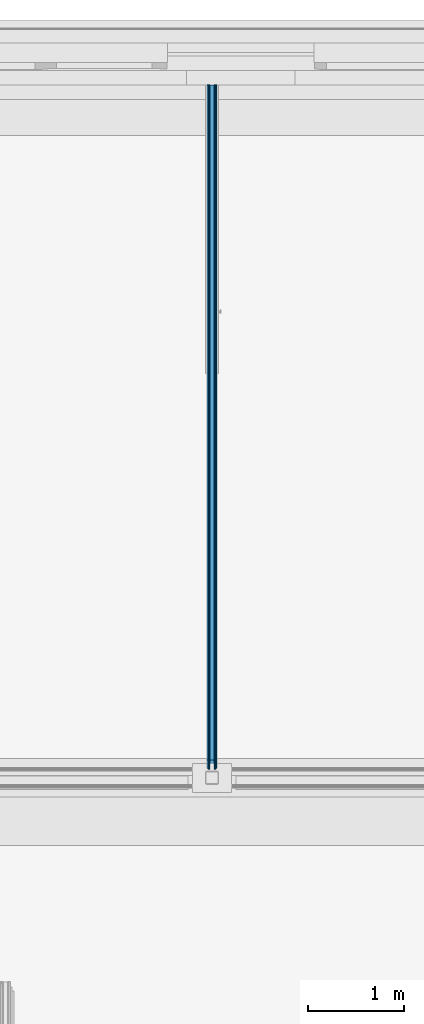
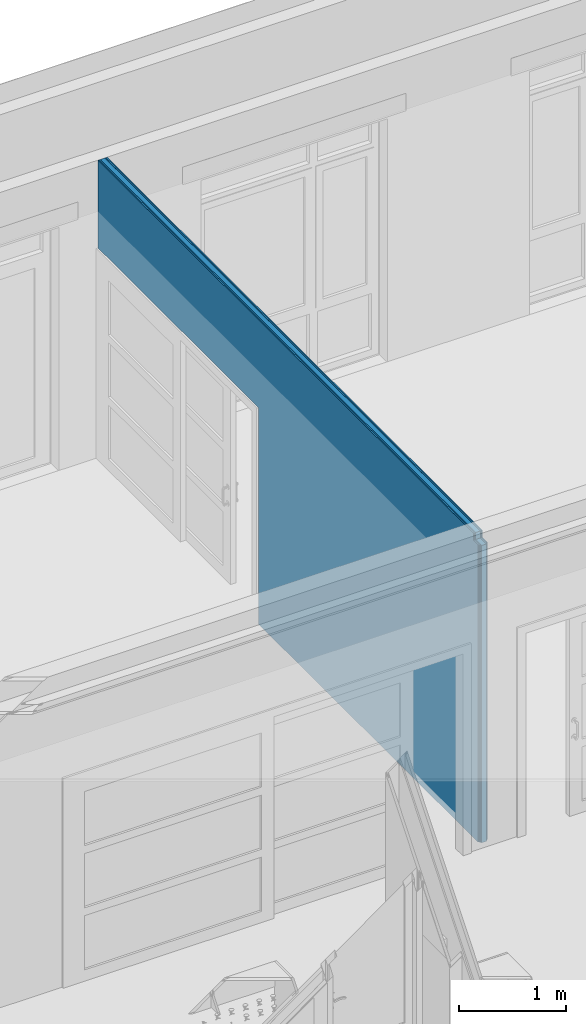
# One storey, part 397 of 788: 5 building element parts, 1 opening, 1 element without a shape of its own.
"""IFC2X3 building model written with IfcOpenShell, lengths in millimetres."""

import ifcopenshell
import ifcopenshell.guid

model = None  # the IFC model being written
_history = None  # IfcOwnerHistory: only IFC2X3 demands one
_inside = {}  # id of a spatial element -> (the spatial element, [elements in it])
_under = {}  # id of a project, library or spatial element -> (it, [spatial elements below it])
_declared = {}  # id of a project -> (the project, [libraries it declares])
_typed = {}  # id of a type object -> (the type object, [elements of that type])
_made_of = {}  # id of a material, layer set ... -> (it, [elements and type objects made of it])


def new_model(schema):
    """Start an empty IFC model of exactly this schema.

    Asked for "IFC4X3", IfcOpenShell would pick the latest addendum, in which some entities
    have other attributes; the version numbers below select the first issue.
    IFC2X3 requires an IfcOwnerHistory on every rooted entity: one is made here for all.
    """
    global model, _history
    if schema == "IFC4X3":
        model = ifcopenshell.file(schema_version=(4, 3, 0, 0))
    else:
        model = ifcopenshell.file(schema=schema)
    _inside.clear()
    _under.clear()
    _declared.clear()
    _typed.clear()
    _made_of.clear()
    _history = None
    if model.schema == "IFC2X3":
        org = make("IfcOrganization", Name="unknown")
        user = make(
            "IfcPersonAndOrganization",
            ThePerson=make("IfcPerson", FamilyName="unknown"),
            TheOrganization=org,
        )
        app = make(
            "IfcApplication",
            ApplicationDeveloper=org,
            Version="unknown",
            ApplicationFullName="unknown",
            ApplicationIdentifier="unknown",
        )
        _history = make(
            "IfcOwnerHistory",
            OwningUser=user,
            OwningApplication=app,
            ChangeAction="ADDED",
            CreationDate=0,
        )
    return model


def make(cls, **values):
    """One entity of the class cls with the attributes given. An attribute that is None is left unset."""
    return model.create_entity(
        cls, **{name: value for name, value in values.items() if value is not None}
    )


def entity(cls, *values):
    """Any entity or typed value of the class cls, its attributes in the order of the schema. None: left unset."""
    e = model.create_entity(cls)
    for i, value in enumerate(values):
        if value is not None:
            e[i] = value
    return e


def rooted(cls, **values):
    """An entity with a GlobalId (a new one), such as an element, a storey or a relation."""
    return make(cls, GlobalId=ifcopenshell.guid.new(), OwnerHistory=_history, **values)


def si_unit(unit_type, name, prefix=None):
    """IfcSIUnit, for example si_unit("LENGTHUNIT", "METRE", prefix="MILLI")."""
    return make("IfcSIUnit", UnitType=unit_type, Prefix=prefix, Name=name)


def converted_unit(unit_type, name, factor, base, dimensions=None, offset=None):
    """IfcConversionBasedUnit, such as the inch: factor (a typed value) times the base unit."""
    return make(
        "IfcConversionBasedUnit"
        if offset is None
        else "IfcConversionBasedUnitWithOffset",
        ConversionOffset=offset,
        Dimensions=None
        if dimensions is None
        else entity("IfcDimensionalExponents", *dimensions),
        UnitType=unit_type,
        Name=name,
        ConversionFactor=make(
            "IfcMeasureWithUnit", ValueComponent=factor, UnitComponent=base
        ),
    )


def derived_unit(unit_type, elements):
    """IfcDerivedUnit: a product of units, each with its exponent."""
    return make(
        "IfcDerivedUnit",
        Elements=[
            make("IfcDerivedUnitElement", Unit=unit, Exponent=power)
            for unit, power in elements
        ],
        UnitType=unit_type,
    )


def money_unit(currency):
    """IfcMonetaryUnit."""
    return make("IfcMonetaryUnit", Currency=currency)


def assignment(units):
    """IfcUnitAssignment: the units of a project."""
    return None if units is None else make("IfcUnitAssignment", Units=units)


def point(xyz):
    """IfcCartesianPoint."""
    return None if xyz is None else make("IfcCartesianPoint", Coordinates=xyz)


def direction(xyz):
    """IfcDirection."""
    return None if xyz is None else make("IfcDirection", DirectionRatios=xyz)


def frame(location, z_axis=None, x_axis=None):
    """IfcAxis2Placement3D, a coordinate frame: its origin and axes. An axis left out is left unset."""
    return make(
        "IfcAxis2Placement3D",
        Location=point(location),
        Axis=direction(z_axis),
        RefDirection=direction(x_axis),
    )


def origin_with_axes():
    """The frame at (0, 0, 0) with the z axis (0, 0, 1) and the x axis (1, 0, 0) written out."""
    return frame((0.0, 0.0, 0.0), z_axis=(0.0, 0.0, 1.0), x_axis=(1.0, 0.0, 0.0))


def place(relative_to, where):
    """IfcLocalPlacement: puts the frame where relative to a parent placement (None: the world)."""
    return make(
        "IfcLocalPlacement", PlacementRelTo=relative_to, RelativePlacement=where
    )


def context(
    kind, dimensions, precision=None, world=None, true_north=None, identifier=None
):
    """IfcGeometricRepresentationContext, for example the 3D "Model" context."""
    return make(
        "IfcGeometricRepresentationContext",
        ContextIdentifier=identifier,
        ContextType=kind,
        CoordinateSpaceDimension=dimensions,
        Precision=precision,
        WorldCoordinateSystem=world,
        TrueNorth=true_north,
    )


def subcontext(parent, identifier, kind, view, scale=None):
    """IfcGeometricRepresentationSubContext, for example "Body" below "Model"."""
    return make(
        "IfcGeometricRepresentationSubContext",
        ContextIdentifier=identifier,
        ContextType=kind,
        ParentContext=parent,
        TargetScale=scale,
        TargetView=view,
    )


def project(units=None, contexts=None):
    """IfcProject with its units and contexts."""
    return rooted(
        "IfcProject",
        Name="project",
        RepresentationContexts=contexts,
        UnitsInContext=assignment(units),
    )


def spatial(cls, under=None, at=None, **own):
    """A site, building, storey or space (cls), placed at a placement, below another one or the project."""
    s = rooted(cls, ObjectPlacement=at, **own)
    if under is not None:
        _under.setdefault(under.id(), (under, []))[1].append(s)
    return s


def faces_of(points, faces, orient=None, outer=None):
    """IfcFace entities. A face is a list of loops; a loop is a list of indices into points, from 0.

    orient and outer hold one flag for each loop. By default every Orientation is true, the
    first loop of a face is its IfcFaceOuterBound and the others are IfcFaceBound.
    """
    made = []
    for i, loops in enumerate(faces):
        bounds = []
        for j, loop in enumerate(loops):
            is_outer = j == 0 if outer is None else outer[i][j]
            bounds.append(
                make(
                    "IfcFaceOuterBound" if is_outer else "IfcFaceBound",
                    Bound=make("IfcPolyLoop", Polygon=[points[k] for k in loop]),
                    Orientation=True if orient is None else orient[i][j],
                )
            )
        made.append(make("IfcFace", Bounds=bounds))
    return made


def faceted_brep(points, faces, orient=None, outer=None, voids=None):
    """IfcFacetedBrep: a solid bounded by flat faces; with voids (closed shells), ...WithVoids."""
    shared = [point(p) for p in points]
    hull = make("IfcClosedShell", CfsFaces=faces_of(shared, faces, orient, outer))
    if voids is None:
        return make("IfcFacetedBrep", Outer=hull)
    return make(
        "IfcFacetedBrepWithVoids",
        Outer=hull,
        Voids=[
            make(cls, CfsFaces=faces_of(shared, fs, o, b)) for cls, fs, o, b in voids
        ],
    )


def shape(context_of_items, identifier, shape_type, items):
    """IfcShapeRepresentation: the items that make up one representation, for example the "Body"."""
    return make(
        "IfcShapeRepresentation",
        ContextOfItems=context_of_items,
        RepresentationIdentifier=identifier,
        RepresentationType=shape_type,
        Items=items,
    )


def material(Name=None, Category=None):
    """IfcMaterial."""
    return make("IfcMaterial", Name=Name, Category=Category)


def made_of(thing, what):
    """Note that an element or type object is made of a material, layer set ...; save() writes the relation."""
    if what is not None:
        _made_of.setdefault(what.id(), (what, []))[1].append(thing)
    return thing


def type_object(cls, material=None, **own):
    """A type object (cls), such as IfcWallType, which elements share."""
    return made_of(rooted(cls, **own), material)


def element(
    cls,
    number,
    at=None,
    inside=None,
    cuts=None,
    type_object=None,
    material=None,
    context=None,
    identifier="Body",
    shape_type=None,
    held_by="IfcProductDefinitionShape",
    body=None,
    shapes=None,
    **own,
):
    """One element of the class cls, such as IfcWall. Its Tag is "e" and its number.

    at: its placement. inside: the storey or other place that contains it. cuts: it is an
    opening in that element (IfcRelVoidsElement). A single representation is given by context,
    identifier, shape_type and body (its items); several are given by shapes. held_by: the class
    of the entity that holds the representations. save() writes the other relations.
    """
    e = rooted(cls, Tag="e%d" % number, ObjectPlacement=at, **own)
    if body is not None:
        shapes = [shape(context, identifier, shape_type, body)]
    if shapes is not None:
        e.Representation = make(held_by, Representations=shapes)
    if inside is not None:
        _inside.setdefault(inside.id(), (inside, []))[1].append(e)
    if cuts is not None:
        rooted(
            "IfcRelVoidsElement", RelatingBuildingElement=cuts, RelatedOpeningElement=e
        )
    if type_object is not None:
        _typed.setdefault(type_object.id(), (type_object, []))[1].append(e)
    return made_of(e, material)


def aggregate(whole, parts):
    """IfcRelAggregates: a whole, such as a stair, and the parts it consists of."""
    return rooted("IfcRelAggregates", RelatingObject=whole, RelatedObjects=parts)


def save(model, path):
    """Write the relations noted so far, then the file.

    IfcRelAggregates (storeys below a building ...), IfcRelContainedInSpatialStructure (elements
    in a storey), IfcRelDefinesByType, IfcRelAssociatesMaterial and IfcRelDeclares: one each for
    every whole, place, type object, material and project.
    """
    for whole, parts in _under.values():
        aggregate(whole, parts)
    for where, things in _inside.values():
        rooted(
            "IfcRelContainedInSpatialStructure",
            RelatedElements=things,
            RelatingStructure=where,
        )
    for kind, things in _typed.values():
        rooted("IfcRelDefinesByType", RelatedObjects=things, RelatingType=kind)
    for what, things in _made_of.values():
        rooted("IfcRelAssociatesMaterial", RelatedObjects=things, RelatingMaterial=what)
    for by, libraries in _declared.values():
        rooted("IfcRelDeclares", RelatingContext=by, RelatedDefinitions=libraries)
    model.write(path)


model = new_model("IFC2X3")

# Units and contexts
model_context = context("Model", 3, precision=0.01, world=origin_with_axes(), true_north=direction((0.0, 1.0)))
plan_context = context("Plan", 3, precision=0.01, world=origin_with_axes(), true_north=direction((0.0, 1.0)))
body_context = subcontext(model_context, "Body", "Model", "MODEL_VIEW")
ifc_project = project(units=[si_unit("LENGTHUNIT", "METRE", prefix="MILLI"), si_unit("AREAUNIT", "SQUARE_METRE"), si_unit("VOLUMEUNIT", "CUBIC_METRE"), converted_unit("PLANEANGLEUNIT", "DEGREE", entity("IfcPlaneAngleMeasure", 0.0174532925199), si_unit("PLANEANGLEUNIT", "RADIAN"), dimensions=[0, 0, 0, 0, 0, 0, 0]), money_unit("EUR"), converted_unit("TIMEUNIT", "Year", entity("IfcTimeMeasure", 31556926.0), si_unit("TIMEUNIT", "SECOND"), dimensions=[0, 0, 1, 0, 0, 0, 0]), si_unit("MASSUNIT", "GRAM", prefix="KILO"), si_unit("THERMODYNAMICTEMPERATUREUNIT", "DEGREE_CELSIUS"), si_unit("LUMINOUSINTENSITYUNIT", "LUMEN"), si_unit("ENERGYUNIT", "JOULE", prefix="MEGA"), derived_unit("THERMALCONDUCTANCEUNIT", [(si_unit("POWERUNIT", "WATT"), 1), (si_unit("LENGTHUNIT", "METRE"), -1), (si_unit("THERMODYNAMICTEMPERATUREUNIT", "KELVIN"), -1)]), derived_unit("SPECIFICHEATCAPACITYUNIT", [(si_unit("ENERGYUNIT", "JOULE"), 1), (si_unit("MASSUNIT", "GRAM", prefix="KILO"), -1), (si_unit("THERMODYNAMICTEMPERATUREUNIT", "KELVIN"), -1)]), derived_unit("MASSDENSITYUNIT", [(si_unit("MASSUNIT", "GRAM", prefix="KILO"), 1), (si_unit("VOLUMEUNIT", "CUBIC_METRE"), -1)])], contexts=[model_context, plan_context])

# Site, building, storey
site_placement = place(None, origin_with_axes())
site = spatial("IfcSite", under=ifc_project, at=site_placement, Name="Site", CompositionType="ELEMENT")
building_placement = place(site_placement, origin_with_axes())
building = spatial("IfcBuilding", under=site, at=building_placement, Name="Naam gebouw", CompositionType="ELEMENT")
storey_placement = place(building_placement, origin_with_axes())
storey = spatial("IfcBuildingStorey", under=building, at=storey_placement, Name="Begane grond", CompositionType="ELEMENT", Elevation=0.0)

# Wall, opening, building element parts
wall_type = type_object("IfcWallType", Name="22 Metalstud 100mm 100", PredefinedType="ELEMENTEDWALL")
wall_placement = place(storey_placement, frame((39700.9874245, 27979.9913222, -70.0), z_axis=(0.0, 0.0, 1.0), x_axis=(0.0, 1.0, 0.0)))
wall = element("IfcWall", 1, at=wall_placement, inside=storey, type_object=wall_type, Name="Binnenwand")
opening_placement = place(wall_placement, frame((5700.0017549, 0.0, 70.0), z_axis=(0.0, 0.0, 1.0), x_axis=(1.0, 0.0, 0.0)))
element("IfcOpeningElement", 2, at=opening_placement, cuts=wall, Name="s.02", context=body_context, shape_type="Brep", body=[
    faceted_brep([(1500.0, -100.0, 2400.0), (1500.0, -100.0, 0.0), (1500.0, 219.5, 0.0), (1500.0, 219.5, 2400.0), (-1500.0, -100.0, 2400.0), (-1500.0, -100.0, 0.0), (-1500.0, 219.5, 0.0), (-1500.0, 219.5, 2400.0)], [[[0, 1, 2, 3]], [[0, 4, 5, 1]], [[1, 5, 6, 2]], [[3, 2, 6, 7]], [[4, 0, 3, 7]], [[5, 4, 7, 6]]]),
])
ifc_material_1 = material(Name="Gipsplaat")
building_element_part_1_placement = place(wall_placement, origin_with_axes())
building_element_part_1 = element("IfcBuildingElementPart", 3, at=building_element_part_1_placement, material=ifc_material_1, Name="Gipsplaat", context=body_context, shape_type="Brep", body=[
    faceted_brep([(4200.0017549, 37.5, 70.0), (4200.0017549, 37.5, 2470.0), (7200.0017549, 37.5, 2470.0), (7200.0017549, 37.5, 3470.0), (187.000000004, 37.5, 3470.0), (187.000000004, 37.5, 3390.0), (100.0, 37.5, 3390.0), (100.0, 37.5, 0.0), (4200.0017549, 37.5, 0.0), (4200.0017549, 50.0, 70.0), (4200.0017549, 50.0, 2470.0), (7200.0017549, 50.0, 2470.0), (7200.0017549, 50.0, 3470.0), (187.000000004, 50.0, 3470.0), (187.000000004, 50.0, 3390.0), (100.0, 50.0, 3390.0), (100.0, 50.0, 0.0), (4200.0017549, 50.0, 0.0)], [[[0, 1, 2, 3, 4, 5, 6, 7, 8]], [[1, 0, 9, 10]], [[11, 2, 1, 10]], [[2, 11, 12, 3]], [[4, 3, 12, 13]], [[13, 14, 5, 4]], [[5, 14, 15, 6]], [[15, 16, 7, 6]], [[17, 8, 7, 16]], [[9, 0, 8, 17]], [[10, 9, 17, 16, 15, 14, 13, 12, 11]]]),
])
building_element_part_2_placement = place(wall_placement, origin_with_axes())
building_element_part_2 = element("IfcBuildingElementPart", 4, at=building_element_part_2_placement, material=ifc_material_1, Name="Gipsplaat", context=body_context, shape_type="Brep", body=[
    faceted_brep([(4200.0017549, 25.0, 70.0), (4200.0017549, 25.0, 2470.0), (7200.0017549, 25.0, 2470.0), (7200.0017549, 25.0, 3470.0), (187.000000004, 25.0, 3470.0), (187.000000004, 25.0, 3390.0), (87.5, 25.0, 3390.0), (87.5, 25.0, 0.0), (4200.0017549, 25.0, 0.0), (4200.0017549, 37.5, 70.0), (4200.0017549, 37.5, 2470.0), (7200.0017549, 37.5, 2470.0), (7200.0017549, 37.5, 3470.0), (187.000000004, 37.5, 3470.0), (187.000000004, 37.5, 3390.0), (87.5, 37.5, 3390.0), (87.5, 37.5, 0.0), (4200.0017549, 37.5, 0.0)], [[[0, 1, 2, 3, 4, 5, 6, 7, 8]], [[1, 0, 9, 10]], [[11, 2, 1, 10]], [[2, 11, 12, 3]], [[4, 3, 12, 13]], [[13, 14, 5, 4]], [[5, 14, 15, 6]], [[15, 16, 7, 6]], [[17, 8, 7, 16]], [[9, 0, 8, 17]], [[10, 9, 17, 16, 15, 14, 13, 12, 11]]]),
])
ifc_material_2 = material(Name="Isolatie - Steenwol LSW")
building_element_part_3_placement = place(wall_placement, origin_with_axes())
building_element_part_3 = element("IfcBuildingElementPart", 5, at=building_element_part_3_placement, material=ifc_material_2, Name="Isolatie - Steenwol LSW", context=body_context, shape_type="Brep", body=[
    faceted_brep([(4200.0017549, -25.0, 70.0), (4200.0017549, -25.0, 2470.0), (7200.0017549, -25.0, 2470.0), (7200.0017549, -25.0, 3470.0), (187.000000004, -25.0, 3470.0), (187.000000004, -25.0, 3390.0), (75.0, -25.0, 3390.0), (75.0, -25.0, 0.0), (4200.0017549, -25.0, 0.0), (4200.0017549, 25.0, 70.0), (4200.0017549, 25.0, 2470.0), (7200.0017549, 25.0, 2470.0), (7200.0017549, 25.0, 3470.0), (187.000000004, 25.0, 3470.0), (187.000000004, 25.0, 3390.0), (75.0, 25.0, 3390.0), (75.0, 25.0, 0.0), (4200.0017549, 25.0, 0.0)], [[[0, 1, 2, 3, 4, 5, 6, 7, 8]], [[1, 0, 9, 10]], [[11, 2, 1, 10]], [[2, 11, 12, 3]], [[4, 3, 12, 13]], [[13, 14, 5, 4]], [[5, 14, 15, 6]], [[15, 16, 7, 6]], [[17, 8, 7, 16]], [[9, 0, 8, 17]], [[10, 9, 17, 16, 15, 14, 13, 12, 11]]]),
])
building_element_part_4_placement = place(wall_placement, origin_with_axes())
building_element_part_4 = element("IfcBuildingElementPart", 6, at=building_element_part_4_placement, material=ifc_material_1, Name="Gipsplaat", context=body_context, shape_type="Brep", body=[
    faceted_brep([(4200.0017549, -37.5, 70.0), (4200.0017549, -37.5, 2470.0), (7200.0017549, -37.5, 2470.0), (7200.0017549, -37.5, 3470.0), (187.000000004, -37.5, 3470.0), (187.000000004, -37.5, 3390.0), (87.5, -37.5, 3390.0), (87.5, -37.5, 0.0), (4200.0017549, -37.5, 0.0), (4200.0017549, -25.0, 70.0), (4200.0017549, -25.0, 2470.0), (7200.0017549, -25.0, 2470.0), (7200.0017549, -25.0, 3470.0), (187.000000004, -25.0, 3470.0), (187.000000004, -25.0, 3390.0), (87.5, -25.0, 3390.0), (87.5, -25.0, 0.0), (4200.0017549, -25.0, 0.0)], [[[0, 1, 2, 3, 4, 5, 6, 7, 8]], [[1, 0, 9, 10]], [[11, 2, 1, 10]], [[2, 11, 12, 3]], [[4, 3, 12, 13]], [[13, 14, 5, 4]], [[5, 14, 15, 6]], [[15, 16, 7, 6]], [[17, 8, 7, 16]], [[9, 0, 8, 17]], [[10, 9, 17, 16, 15, 14, 13, 12, 11]]]),
])
building_element_part_5_placement = place(wall_placement, origin_with_axes())
building_element_part_5 = element("IfcBuildingElementPart", 7, at=building_element_part_5_placement, material=ifc_material_1, Name="Gipsplaat", context=body_context, shape_type="Brep", body=[
    faceted_brep([(4200.0017549, -50.0, 70.0), (4200.0017549, -50.0, 2470.0), (7200.0017549, -50.0, 2470.0), (7200.0017549, -50.0, 3470.0), (187.000000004, -50.0, 3470.0), (187.000000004, -50.0, 3390.0), (100.0, -50.0, 3390.0), (100.0, -50.0, 0.0), (4200.0017549, -50.0, 0.0), (4200.0017549, -37.5, 70.0), (4200.0017549, -37.5, 2470.0), (7200.0017549, -37.5, 2470.0), (7200.0017549, -37.5, 3470.0), (187.000000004, -37.5, 3470.0), (187.000000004, -37.5, 3390.0), (100.0, -37.5, 3390.0), (100.0, -37.5, 0.0), (4200.0017549, -37.5, 0.0)], [[[0, 1, 2, 3, 4, 5, 6, 7, 8]], [[1, 0, 9, 10]], [[11, 2, 1, 10]], [[2, 11, 12, 3]], [[4, 3, 12, 13]], [[13, 14, 5, 4]], [[5, 14, 15, 6]], [[15, 16, 7, 6]], [[17, 8, 7, 16]], [[9, 0, 8, 17]], [[10, 9, 17, 16, 15, 14, 13, 12, 11]]]),
])
aggregate(wall, [building_element_part_1, building_element_part_2, building_element_part_3, building_element_part_4, building_element_part_5])

save(model, "model.ifc")
